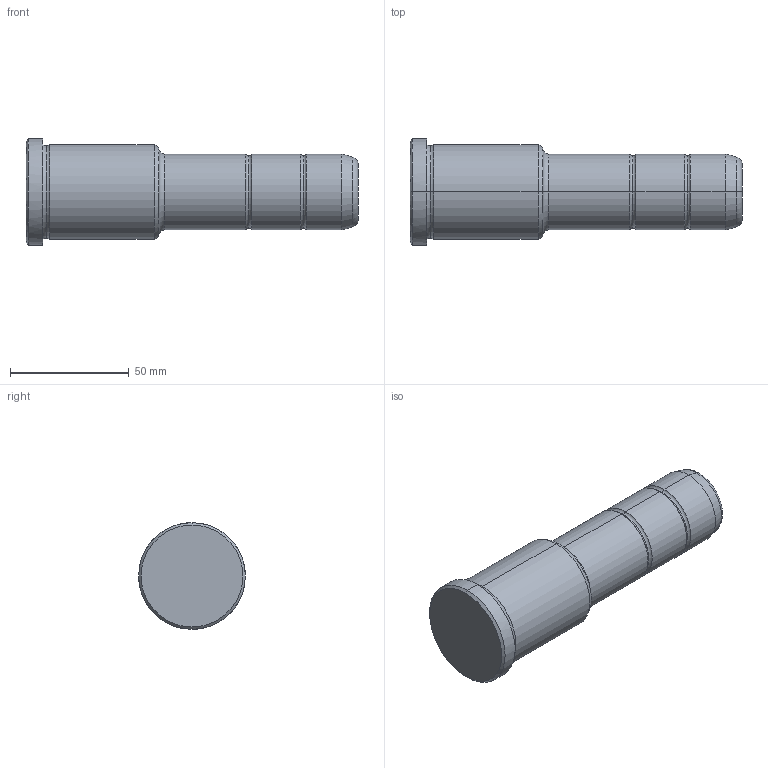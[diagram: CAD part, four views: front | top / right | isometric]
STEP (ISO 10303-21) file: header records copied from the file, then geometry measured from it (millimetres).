
FILE_DESCRIPTION(('CATIA V5 STEP Exchange'),'2;1');
FILE_NAME('C:\Users\Utente\Desktop\IO LAVORO\3D X SITO CF\X SITO\PLASTICA\351\351-32X56X140.stp','2021-09-07T12:36:59+00:00',('none'),('none'),'CATIA Version 5 Release 20 GA (IN-10)','CATIA V5 STEP AP203','none');
FILE_SCHEMA(('CONFIG_CONTROL_DESIGN'));
Length unit declared in the file: millimetre
Products named in the file (1): 351-32X56X140
Bounding box: 140 x 45 x 45 mm (x, y, z)
Volume: 139059.8 mm3; surface area: 18343.3 mm2
Topology: 1 solids, 1 shells, 36 faces, 102 edges, 70 vertices
Faces by surface type: torus 16, cylinder 10, cone 6, plane 4
Entity records: 1292 total; most frequent: CARTESIAN_POINT 321, ORIENTED_EDGE 204, DIRECTION 166, AXIS2_PLACEMENT_3D 115, EDGE_CURVE 102, CIRCLE 78, VERTEX_POINT 70, EDGE_LOOP 38
